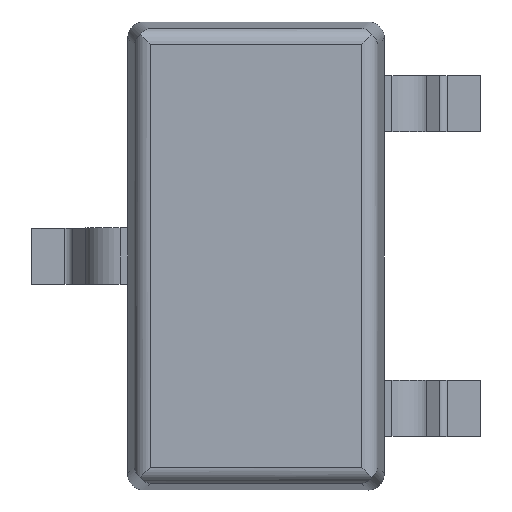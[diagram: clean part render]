
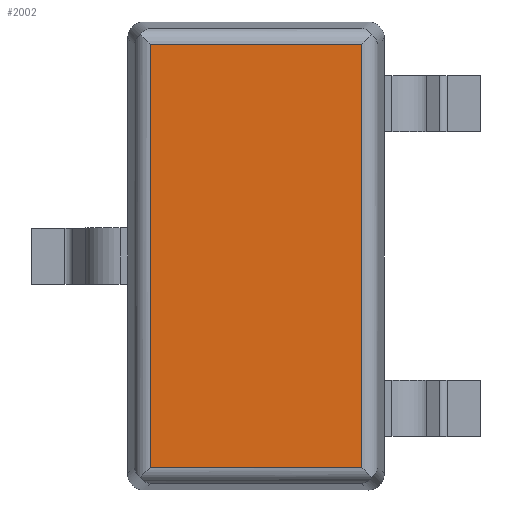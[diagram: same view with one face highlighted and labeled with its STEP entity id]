
A CAD part, top view. The second image highlights one B-rep face of the part: STEP entity #2002.
In plain terms, the highlighted planar face has unit normal (0, 0, 1).
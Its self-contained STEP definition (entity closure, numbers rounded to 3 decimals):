
#9 = CARTESIAN_POINT ( 'NONE',  ( 66.102, 490.323, 0.45 ) ) ;
#92 = ORIENTED_EDGE ( 'NONE', *, *, #1325, .T. ) ;
#148 = CARTESIAN_POINT ( 'NONE',  ( 66.102, 492.963, 0.45 ) ) ;
#257 = CARTESIAN_POINT ( 'NONE',  ( 66.762, 492.963, 0.45 ) ) ;
#297 = EDGE_CURVE ( 'NONE', #1832, #872, #931, .T. ) ;
#310 = EDGE_LOOP ( 'NONE', ( #92, #1341, #1921, #1966 ) ) ;
#341 = FACE_OUTER_BOUND ( 'NONE', #310, .T. ) ;
#432 = EDGE_CURVE ( 'NONE', #1321, #1832, #546, .T. ) ;
#541 = VECTOR ( 'NONE', #1923, 1000. ) ;
#546 = LINE ( 'NONE', #1015, #667 ) ;
#594 = CARTESIAN_POINT ( 'NONE',  ( 66.762, 491.643, 0.45 ) ) ;
#667 = VECTOR ( 'NONE', #1190, 1000. ) ;
#767 = DIRECTION ( 'NONE',  ( -1., 0., 0. ) ) ;
#836 = CARTESIAN_POINT ( 'NONE',  ( 66.762, 490.323, 0.45 ) ) ;
#872 = VERTEX_POINT ( 'NONE', #836 ) ;
#931 = LINE ( 'NONE', #9, #2056 ) ;
#952 = LINE ( 'NONE', #148, #1826 ) ;
#994 = PLANE ( 'NONE',  #2053 ) ;
#1015 = CARTESIAN_POINT ( 'NONE',  ( 65.443, 491.643, 0.45 ) ) ;
#1190 = DIRECTION ( 'NONE',  ( 0., -1., 0. ) ) ;
#1227 = DIRECTION ( 'NONE',  ( 0., 0., 1. ) ) ;
#1270 = LINE ( 'NONE', #594, #541 ) ;
#1321 = VERTEX_POINT ( 'NONE', #1611 ) ;
#1325 = EDGE_CURVE ( 'NONE', #1672, #1321, #952, .T. ) ;
#1341 = ORIENTED_EDGE ( 'NONE', *, *, #432, .T. ) ;
#1611 = CARTESIAN_POINT ( 'NONE',  ( 65.443, 492.963, 0.45 ) ) ;
#1631 = DIRECTION ( 'NONE',  ( 1., 0., 0. ) ) ;
#1647 = CARTESIAN_POINT ( 'NONE',  ( 66.102, 491.643, 0.45 ) ) ;
#1672 = VERTEX_POINT ( 'NONE', #257 ) ;
#1709 = DIRECTION ( 'NONE',  ( 1., 0., 0. ) ) ;
#1728 = EDGE_CURVE ( 'NONE', #872, #1672, #1270, .T. ) ;
#1826 = VECTOR ( 'NONE', #767, 1000. ) ;
#1832 = VERTEX_POINT ( 'NONE', #2105 ) ;
#1921 = ORIENTED_EDGE ( 'NONE', *, *, #297, .T. ) ;
#1923 = DIRECTION ( 'NONE',  ( 0., 1., 0. ) ) ;
#1966 = ORIENTED_EDGE ( 'NONE', *, *, #1728, .T. ) ;
#2002 = ADVANCED_FACE ( 'NONE', ( #341 ), #994, .T. ) ;
#2053 = AXIS2_PLACEMENT_3D ( 'NONE', #1647, #1227, #1709 ) ;
#2056 = VECTOR ( 'NONE', #1631, 1000. ) ;
#2105 = CARTESIAN_POINT ( 'NONE',  ( 65.443, 490.323, 0.45 ) ) ;
